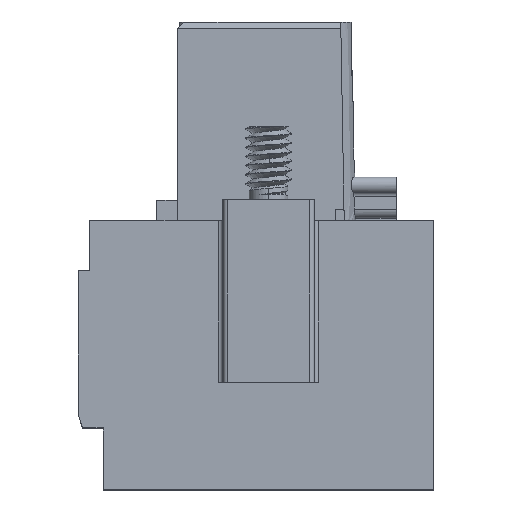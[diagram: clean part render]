
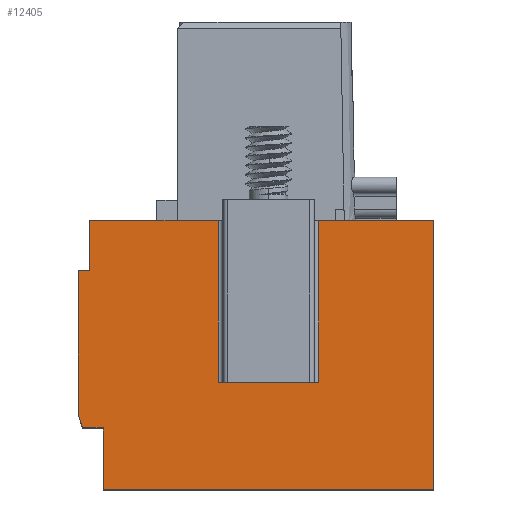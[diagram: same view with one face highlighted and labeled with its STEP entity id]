
A CAD part, top view. The second image highlights one B-rep face of the part: STEP entity #12405.
In plain terms, the highlighted planar face has unit normal (0, 0, 1).
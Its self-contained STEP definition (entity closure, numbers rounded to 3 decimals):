
#395=DIRECTION('',(0.,-1.,0.));
#396=VECTOR('',#395,2.2);
#397=CARTESIAN_POINT('',(0.5,11.8,-3.15));
#398=LINE('',#397,#396);
#525=DIRECTION('',(-1.,0.,0.));
#526=VECTOR('',#525,5.05);
#527=CARTESIAN_POINT('',(15.6,11.8,-3.15));
#528=LINE('',#527,#526);
#543=DIRECTION('',(-1.,0.,0.));
#544=VECTOR('',#543,5.65);
#545=CARTESIAN_POINT('',(6.15,11.8,-3.15));
#546=LINE('',#545,#544);
#1956=DIRECTION('',(-0.316,0.949,0.));
#1957=VECTOR('',#1956,0.632);
#1958=CARTESIAN_POINT('',(0.2,2.7,-3.15));
#1959=LINE('',#1958,#1957);
#1960=DIRECTION('',(1.,0.,0.));
#1961=VECTOR('',#1960,2.2);
#1962=CARTESIAN_POINT('',(6.15,4.7,-3.15));
#1963=LINE('',#1962,#1961);
#1964=DIRECTION('',(1.,0.,0.));
#1965=VECTOR('',#1964,2.2);
#1966=CARTESIAN_POINT('',(8.35,4.7,-3.15));
#1967=LINE('',#1966,#1965);
#1968=DIRECTION('',(0.,-1.,0.));
#1969=VECTOR('',#1968,11.8);
#1970=CARTESIAN_POINT('',(15.6,11.8,-3.15));
#1971=LINE('',#1970,#1969);
#1972=DIRECTION('',(-1.,0.,0.));
#1973=VECTOR('',#1972,14.5);
#1974=CARTESIAN_POINT('',(15.6,0.,-3.15));
#1975=LINE('',#1974,#1973);
#1976=DIRECTION('',(0.,1.,0.));
#1977=VECTOR('',#1976,2.7);
#1978=CARTESIAN_POINT('',(1.1,0.,-3.15));
#1979=LINE('',#1978,#1977);
#1984=DIRECTION('',(1.,0.,0.));
#1985=VECTOR('',#1984,0.9);
#1986=CARTESIAN_POINT('',(0.2,2.7,-3.15));
#1987=LINE('',#1986,#1985);
#2204=DIRECTION('',(-1.,0.,0.));
#2205=VECTOR('',#2204,0.5);
#2206=CARTESIAN_POINT('',(0.5,9.6,-3.15));
#2207=LINE('',#2206,#2205);
#2216=DIRECTION('',(0.,-1.,0.));
#2217=VECTOR('',#2216,6.3);
#2218=CARTESIAN_POINT('',(0.,9.6,-3.15));
#2219=LINE('',#2218,#2217);
#2232=DIRECTION('',(0.,1.,0.));
#2233=VECTOR('',#2232,7.1);
#2234=CARTESIAN_POINT('',(6.15,4.7,-3.15));
#2235=LINE('',#2234,#2233);
#2355=DIRECTION('',(0.,-1.,0.));
#2356=VECTOR('',#2355,7.1);
#2357=CARTESIAN_POINT('',(10.55,11.8,-3.15));
#2358=LINE('',#2357,#2356);
#6764=CARTESIAN_POINT('',(1.1,0.,-3.15));
#6766=VERTEX_POINT('',#6764);
#6780=CARTESIAN_POINT('',(1.1,2.7,-3.15));
#6782=VERTEX_POINT('',#6780);
#6784=CARTESIAN_POINT('',(15.6,0.,-3.15));
#6786=VERTEX_POINT('',#6784);
#6860=CARTESIAN_POINT('',(15.6,11.8,-3.15));
#6862=VERTEX_POINT('',#6860);
#6888=CARTESIAN_POINT('',(0.5,11.8,-3.15));
#6890=VERTEX_POINT('',#6888);
#6904=CARTESIAN_POINT('',(10.55,11.8,-3.15));
#6905=VERTEX_POINT('',#6904);
#6914=CARTESIAN_POINT('',(6.15,11.8,-3.15));
#6915=VERTEX_POINT('',#6914);
#6940=CARTESIAN_POINT('',(0.5,9.6,-3.15));
#6941=VERTEX_POINT('',#6940);
#7809=CARTESIAN_POINT('',(0.,9.6,-3.15));
#7810=VERTEX_POINT('',#7809);
#7813=CARTESIAN_POINT('',(0.2,2.7,-3.15));
#7814=CARTESIAN_POINT('',(0.,3.3,-3.15));
#7815=VERTEX_POINT('',#7813);
#7816=VERTEX_POINT('',#7814);
#7817=CARTESIAN_POINT('',(6.15,4.7,-3.15));
#7818=VERTEX_POINT('',#7817);
#7819=CARTESIAN_POINT('',(8.35,4.7,-3.15));
#7820=VERTEX_POINT('',#7819);
#7821=CARTESIAN_POINT('',(10.55,4.7,-3.15));
#7822=VERTEX_POINT('',#7821);
#12376=CARTESIAN_POINT('',(8.35,0.,-3.15));
#12377=DIRECTION('',(0.,0.,1.));
#12378=DIRECTION('',(1.,0.,0.));
#12379=AXIS2_PLACEMENT_3D('',#12376,#12377,#12378);
#12380=PLANE('',#12379);
#12382=ORIENTED_EDGE('',*,*,#12381,.T.);
#12384=ORIENTED_EDGE('',*,*,#12383,.F.);
#12386=ORIENTED_EDGE('',*,*,#12385,.F.);
#12387=ORIENTED_EDGE('',*,*,#8957,.F.);
#12388=ORIENTED_EDGE('',*,*,#9118,.F.);
#12390=ORIENTED_EDGE('',*,*,#12389,.F.);
#12392=ORIENTED_EDGE('',*,*,#12391,.T.);
#12394=ORIENTED_EDGE('',*,*,#12393,.T.);
#12396=ORIENTED_EDGE('',*,*,#12395,.F.);
#12397=ORIENTED_EDGE('',*,*,#9106,.F.);
#12398=ORIENTED_EDGE('',*,*,#12232,.T.);
#12399=ORIENTED_EDGE('',*,*,#12275,.T.);
#12400=ORIENTED_EDGE('',*,*,#8498,.T.);
#12402=ORIENTED_EDGE('',*,*,#12401,.F.);
#12403=EDGE_LOOP('',(#12382,#12384,#12386,#12387,#12388,#12390,#12392,#12394,
#12396,#12397,#12398,#12399,#12400,#12402));
#12404=FACE_OUTER_BOUND('',#12403,.F.);
#12405=ADVANCED_FACE('',(#12404),#12380,.T.);
#8498=EDGE_CURVE('',#6766,#6782,#1979,.T.);
#8957=EDGE_CURVE('',#6890,#6941,#398,.T.);
#9106=EDGE_CURVE('',#6862,#6905,#528,.T.);
#9118=EDGE_CURVE('',#6915,#6890,#546,.T.);
#12232=EDGE_CURVE('',#6862,#6786,#1971,.T.);
#12275=EDGE_CURVE('',#6786,#6766,#1975,.T.);
#12381=EDGE_CURVE('',#7815,#7816,#1959,.T.);
#12383=EDGE_CURVE('',#7810,#7816,#2219,.T.);
#12385=EDGE_CURVE('',#6941,#7810,#2207,.T.);
#12389=EDGE_CURVE('',#7818,#6915,#2235,.T.);
#12391=EDGE_CURVE('',#7818,#7820,#1963,.T.);
#12393=EDGE_CURVE('',#7820,#7822,#1967,.T.);
#12395=EDGE_CURVE('',#6905,#7822,#2358,.T.);
#12401=EDGE_CURVE('',#7815,#6782,#1987,.T.);
